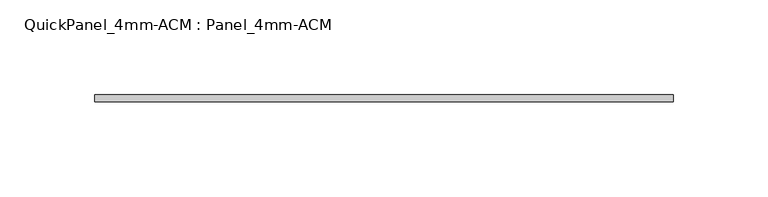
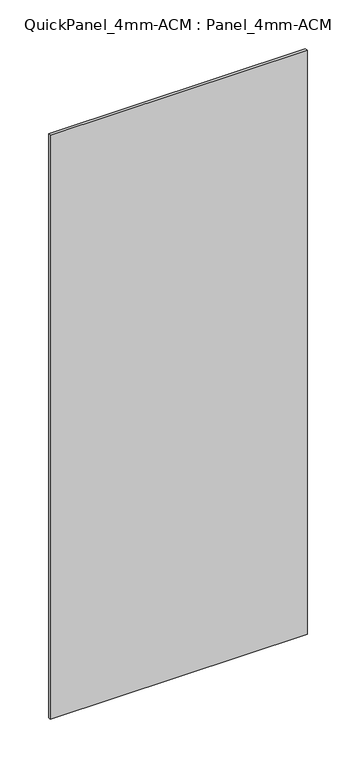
"""IFC4 building model written with IfcOpenShell, lengths in millimetres: plate geometry, QuickPanel_4mm-ACM : Panel_4mm-ACM."""

from ifc_helpers import new_model, si_unit, origin, origin_with_axes, place, context, project, spatial, polyline, outline, extrude, source, transform, mapped, element, save


def quickpanel_4mm_acm_panel_4mm_acm_61124f30(model_context):
    return source(origin(), model_context, "Body", "SweptSolid", [
        extrude(outline(polyline([(-152.665908, -6.096), (152.665908, -6.096), (152.665908, -9.906), (-152.665908, -9.906), (-152.665908, -6.096)])), origin_with_axes(), (0.0, 0.0, 1.0), 734.3930447),
    ])


if __name__ == "__main__":
    model = new_model("IFC4")
    model_context = context("Model", 3, world=origin())
    ifc_project = project(units=[si_unit("LENGTHUNIT", "METRE", prefix="MILLI")], contexts=[model_context])
    site = spatial("IfcSite", under=ifc_project)
    building = spatial("IfcBuilding", under=site)
    placement = place(None, origin())
    quickpanel_4mm_acm_panel_4mm_acm_shape = quickpanel_4mm_acm_panel_4mm_acm_61124f30(model_context)
    element("IfcPlate", 1, ObjectType="QuickPanel_4mm-ACM : Panel_4mm-ACM", at=placement, inside=building, context=model_context, shape_type="MappedRepresentation", body=[
        mapped(quickpanel_4mm_acm_panel_4mm_acm_shape, transform((0.0, 0.0, 0.0), x_axis=(1.0, 0.0, 0.0), y_axis=(0.0, 1.0, 0.0), z_axis=(0.0, 0.0, 1.0))),
    ])
    save(model, "model.ifc")
